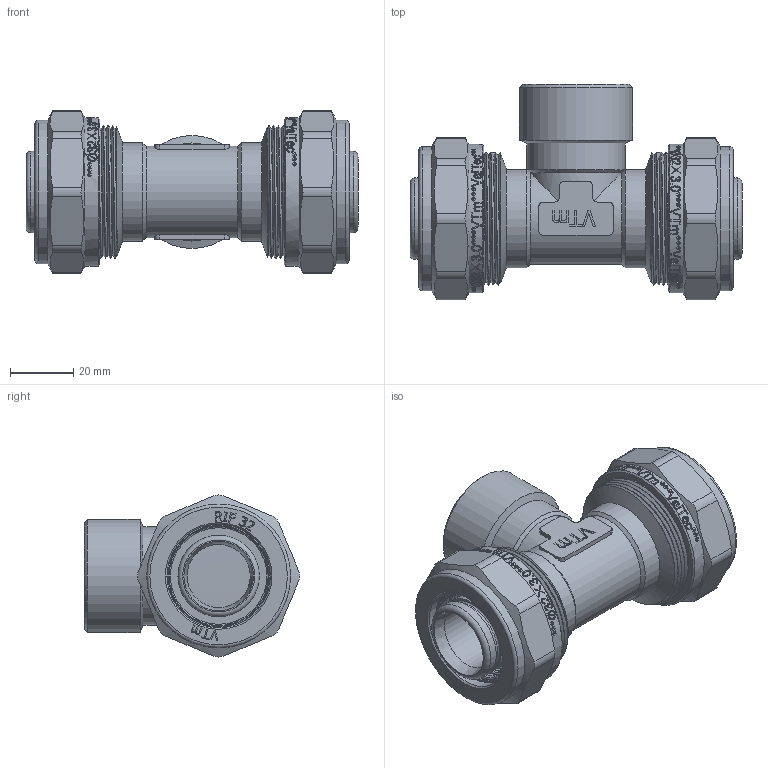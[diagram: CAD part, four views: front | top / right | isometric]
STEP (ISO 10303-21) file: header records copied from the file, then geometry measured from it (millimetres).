
FILE_DESCRIPTION(/* description */ (''),/* implementation_level */ '2;1');
FILE_NAME(/* name */ 'E:\Артём\00000\Работа удаленка\Обжимные фитинги\VTm.332.N.320532.stp',/* time_stamp */ '2020-07-08T14:01:31+03:00',/* author */ ('BeN_GaN'),/* organization */ (''),/* preprocessor_version */ 'ST-DEVELOPER v18',/* originating_system */ 'Autodesk Inventor 2020',/* authorisation */ '');
FILE_SCHEMA (('AUTOMOTIVE_DESIGN { 1 0 10303 214 3 1 1 }'));
Length unit declared in the file: millimetre
Products named in the file (1): VTm.332.N.320532
Bounding box: 105 x 68.15 x 51.3 mm (x, y, z)
Volume: 89686.3 mm3; surface area: 47892.7 mm2
Topology: 1 solids, 1 shells, 1459 faces, 4155 edges, 2799 vertices
Faces by surface type: bspline 766, plane 404, cylinder 207, torus 48, cone 34
Full cylindrical faces by diameter (mm): 20 x1, 23.4 x4, 24.5 x7, 25.75 x10, 28.1 x10, 29 x1, 30.538 x8, 31 x3, 31.683 x10, 32.2 x2, 32.7 x2, 35.5 x2, 35.743 x1, 40.38 x16, 40.5 x7, 42 x6, 45.5 x2, 47 x2
Entity records: 66364 total; most frequent: CARTESIAN_POINT 33424, ORIENTED_EDGE 8316, DIRECTION 4356, EDGE_CURVE 4158, VERTEX_POINT 2802, LINE 1786, VECTOR 1786, B_SPLINE_CURVE_WITH_KNOTS 1749
